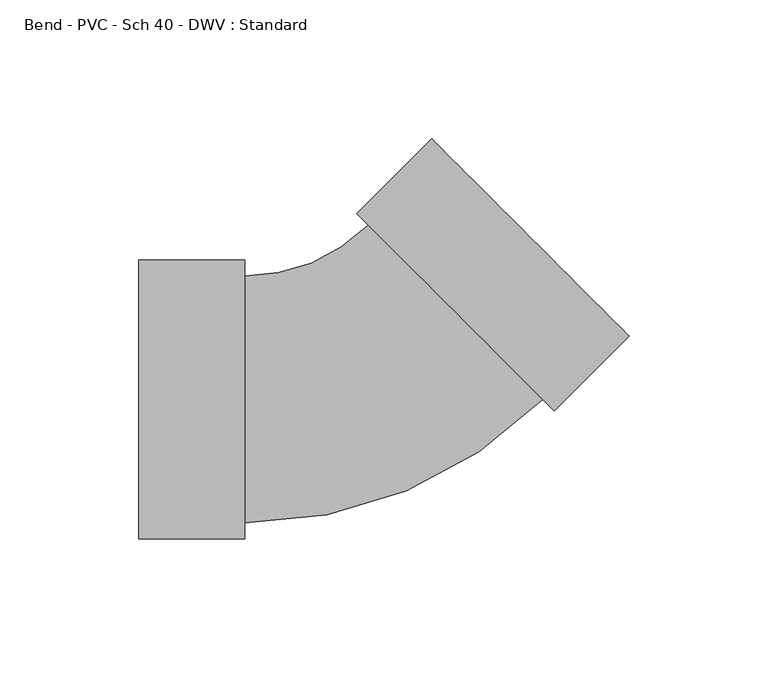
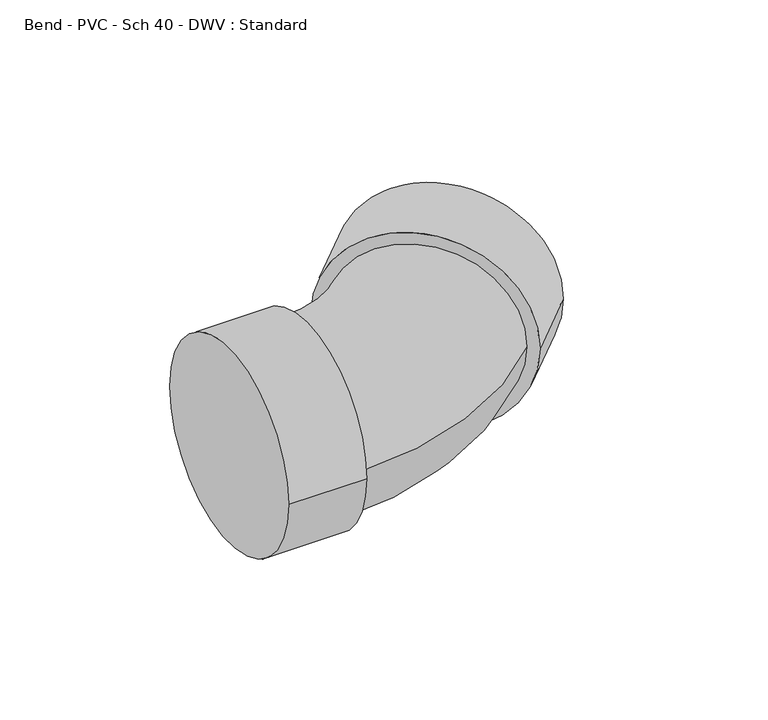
"""IFC4 building model written with IfcOpenShell, lengths in millimetres: pipe fitting geometry, Bend - PVC - Sch 40 - DWV : Standard."""

import ifcopenshell
import ifcopenshell.guid

model = None  # the IFC model being written
_history = None  # IfcOwnerHistory: only IFC2X3 demands one
_inside = {}  # id of a spatial element -> (the spatial element, [elements in it])
_under = {}  # id of a project, library or spatial element -> (it, [spatial elements below it])
_declared = {}  # id of a project -> (the project, [libraries it declares])
_typed = {}  # id of a type object -> (the type object, [elements of that type])
_made_of = {}  # id of a material, layer set ... -> (it, [elements and type objects made of it])


def new_model(schema):
    """Start an empty IFC model of exactly this schema.

    Asked for "IFC4X3", IfcOpenShell would pick the latest addendum, in which some entities
    have other attributes; the version numbers below select the first issue.
    IFC2X3 requires an IfcOwnerHistory on every rooted entity: one is made here for all.
    """
    global model, _history
    if schema == "IFC4X3":
        model = ifcopenshell.file(schema_version=(4, 3, 0, 0))
    else:
        model = ifcopenshell.file(schema=schema)
    _inside.clear()
    _under.clear()
    _declared.clear()
    _typed.clear()
    _made_of.clear()
    _history = None
    if model.schema == "IFC2X3":
        org = make("IfcOrganization", Name="unknown")
        user = make(
            "IfcPersonAndOrganization",
            ThePerson=make("IfcPerson", FamilyName="unknown"),
            TheOrganization=org,
        )
        app = make(
            "IfcApplication",
            ApplicationDeveloper=org,
            Version="unknown",
            ApplicationFullName="unknown",
            ApplicationIdentifier="unknown",
        )
        _history = make(
            "IfcOwnerHistory",
            OwningUser=user,
            OwningApplication=app,
            ChangeAction="ADDED",
            CreationDate=0,
        )
    return model


def make(cls, **values):
    """One entity of the class cls with the attributes given. An attribute that is None is left unset."""
    return model.create_entity(
        cls, **{name: value for name, value in values.items() if value is not None}
    )


def rooted(cls, **values):
    """An entity with a GlobalId (a new one), such as an element, a storey or a relation."""
    return make(cls, GlobalId=ifcopenshell.guid.new(), OwnerHistory=_history, **values)


def si_unit(unit_type, name, prefix=None):
    """IfcSIUnit, for example si_unit("LENGTHUNIT", "METRE", prefix="MILLI")."""
    return make("IfcSIUnit", UnitType=unit_type, Prefix=prefix, Name=name)


def assignment(units):
    """IfcUnitAssignment: the units of a project."""
    return None if units is None else make("IfcUnitAssignment", Units=units)


def point(xyz):
    """IfcCartesianPoint."""
    return None if xyz is None else make("IfcCartesianPoint", Coordinates=xyz)


def direction(xyz):
    """IfcDirection."""
    return None if xyz is None else make("IfcDirection", DirectionRatios=xyz)


def frame(location, z_axis=None, x_axis=None):
    """IfcAxis2Placement3D, a coordinate frame: its origin and axes. An axis left out is left unset."""
    return make(
        "IfcAxis2Placement3D",
        Location=point(location),
        Axis=direction(z_axis),
        RefDirection=direction(x_axis),
    )


def origin():
    """The frame at (0, 0, 0) with its axes left unset."""
    return frame((0.0, 0.0, 0.0))


def place(relative_to, where):
    """IfcLocalPlacement: puts the frame where relative to a parent placement (None: the world)."""
    return make(
        "IfcLocalPlacement", PlacementRelTo=relative_to, RelativePlacement=where
    )


def context(
    kind, dimensions, precision=None, world=None, true_north=None, identifier=None
):
    """IfcGeometricRepresentationContext, for example the 3D "Model" context."""
    return make(
        "IfcGeometricRepresentationContext",
        ContextIdentifier=identifier,
        ContextType=kind,
        CoordinateSpaceDimension=dimensions,
        Precision=precision,
        WorldCoordinateSystem=world,
        TrueNorth=true_north,
    )


def project(units=None, contexts=None):
    """IfcProject with its units and contexts."""
    return rooted(
        "IfcProject",
        Name="project",
        RepresentationContexts=contexts,
        UnitsInContext=assignment(units),
    )


def spatial(cls, under=None, at=None, **own):
    """A site, building, storey or space (cls), placed at a placement, below another one or the project."""
    s = rooted(cls, ObjectPlacement=at, **own)
    if under is not None:
        _under.setdefault(under.id(), (under, []))[1].append(s)
    return s


def circle_curve(where, radius):
    """IfcCircle in the frame where."""
    return make("IfcCircle", Position=where, Radius=radius)


def ellipse_curve(where, semi_axis1, semi_axis2):
    """IfcEllipse in the frame where."""
    return make(
        "IfcEllipse", Position=where, SemiAxis1=semi_axis1, SemiAxis2=semi_axis2
    )


def trimmed(basis, trim1, trim2, sense, master):
    """IfcTrimmedCurve: the piece of a basis curve between two trims."""
    return make(
        "IfcTrimmedCurve",
        BasisCurve=basis,
        Trim1=trim1,
        Trim2=trim2,
        SenseAgreement=sense,
        MasterRepresentation=master,
    )


def shape(context_of_items, identifier, shape_type, items):
    """IfcShapeRepresentation: the items that make up one representation, for example the "Body"."""
    return make(
        "IfcShapeRepresentation",
        ContextOfItems=context_of_items,
        RepresentationIdentifier=identifier,
        RepresentationType=shape_type,
        Items=items,
    )


def source(mapping_origin, context_of_items, identifier, shape_type, items):
    """IfcRepresentationMap: a shape defined once, which mapped items show again and again."""
    return make(
        "IfcRepresentationMap",
        MappingOrigin=mapping_origin,
        MappedRepresentation=shape(context_of_items, identifier, shape_type, items),
    )


def transform(
    local_origin,
    x_axis=None,
    y_axis=None,
    z_axis=None,
    scale=None,
    scale2=None,
    scale3=None,
    uniform=True,
):
    """IfcCartesianTransformationOperator3D, or its non-uniform kind. x_axis, y_axis, z_axis: its Axis1, 2, 3."""
    if uniform:
        return make(
            "IfcCartesianTransformationOperator3D",
            Axis1=direction(x_axis),
            Axis2=direction(y_axis),
            LocalOrigin=point(local_origin),
            Scale=scale,
            Axis3=direction(z_axis),
        )
    return make(
        "IfcCartesianTransformationOperator3DnonUniform",
        Axis1=direction(x_axis),
        Axis2=direction(y_axis),
        LocalOrigin=point(local_origin),
        Scale=scale,
        Axis3=direction(z_axis),
        Scale2=scale2,
        Scale3=scale3,
    )


def mapped(mapping_source, mapping_target):
    """IfcMappedItem: shows the shape of a source again, moved by a transform."""
    return make(
        "IfcMappedItem", MappingSource=mapping_source, MappingTarget=mapping_target
    )


def made_of(thing, what):
    """Note that an element or type object is made of a material, layer set ...; save() writes the relation."""
    if what is not None:
        _made_of.setdefault(what.id(), (what, []))[1].append(thing)
    return thing


def element(
    cls,
    number,
    at=None,
    inside=None,
    cuts=None,
    type_object=None,
    material=None,
    context=None,
    identifier="Body",
    shape_type=None,
    held_by="IfcProductDefinitionShape",
    body=None,
    shapes=None,
    **own,
):
    """One element of the class cls, such as IfcWall. Its Tag is "e" and its number.

    at: its placement. inside: the storey or other place that contains it. cuts: it is an
    opening in that element (IfcRelVoidsElement). A single representation is given by context,
    identifier, shape_type and body (its items); several are given by shapes. held_by: the class
    of the entity that holds the representations. save() writes the other relations.
    """
    e = rooted(cls, Tag="e%d" % number, ObjectPlacement=at, **own)
    if body is not None:
        shapes = [shape(context, identifier, shape_type, body)]
    if shapes is not None:
        e.Representation = make(held_by, Representations=shapes)
    if inside is not None:
        _inside.setdefault(inside.id(), (inside, []))[1].append(e)
    if cuts is not None:
        rooted(
            "IfcRelVoidsElement", RelatingBuildingElement=cuts, RelatedOpeningElement=e
        )
    if type_object is not None:
        _typed.setdefault(type_object.id(), (type_object, []))[1].append(e)
    return made_of(e, material)


def aggregate(whole, parts):
    """IfcRelAggregates: a whole, such as a stair, and the parts it consists of."""
    return rooted("IfcRelAggregates", RelatingObject=whole, RelatedObjects=parts)


def save(model, path):
    """Write the relations noted so far, then the file.

    IfcRelAggregates (storeys below a building ...), IfcRelContainedInSpatialStructure (elements
    in a storey), IfcRelDefinesByType, IfcRelAssociatesMaterial and IfcRelDeclares: one each for
    every whole, place, type object, material and project.
    """
    for whole, parts in _under.values():
        aggregate(whole, parts)
    for where, things in _inside.values():
        rooted(
            "IfcRelContainedInSpatialStructure",
            RelatedElements=things,
            RelatingStructure=where,
        )
    for kind, things in _typed.values():
        rooted("IfcRelDefinesByType", RelatedObjects=things, RelatingType=kind)
    for what, things in _made_of.values():
        rooted("IfcRelAssociatesMaterial", RelatedObjects=things, RelatingMaterial=what)
    for by, libraries in _declared.values():
        rooted("IfcRelDeclares", RelatingContext=by, RelatedDefinitions=libraries)
    model.write(path)


def plane_surface(at):
    """IfcPlane: the flat surface through the origin of the frame at, square to its z axis."""
    return make("IfcPlane", Position=at)


def cylinder_surface(at, radius):
    """IfcCylindricalSurface: all points at the distance radius from the z axis of the frame at."""
    return make("IfcCylindricalSurface", Position=at, Radius=radius)


def revolved_surface(curve, axis_point, axis_direction):
    """IfcSurfaceOfRevolution: the curve turned about the line through axis_point along axis_direction."""
    return make(
        "IfcSurfaceOfRevolution",
        SweptCurve=make("IfcArbitraryOpenProfileDef", ProfileType="CURVE", Curve=curve),
        AxisPosition=make("IfcAxis1Placement", Location=point(axis_point), Axis=direction(axis_direction)),
    )


def advanced_brep(points, edges, surfaces, faces):
    """IfcAdvancedBrep: a solid bounded by faces that lie on surfaces and meet in shared edges.

    An edge is (start, end): straight between two places in points (the first is 0);
    or (start, end, curve); or (start, end, curve, False) where it runs against its curve.
    A face is (place in surfaces, loops), or (place, loops, False) where it looks against
    its surface's normal. A loop lists edges by number (the first is 1), with a minus sign
    where the edge is run from its end to its start. The first loop is the outer one.
    """
    corners = [point(p) for p in points]
    vertices = [make("IfcVertexPoint", VertexGeometry=c) for c in corners]
    made = []
    for start, end, *more in edges:
        made.append(
            make(
                "IfcEdgeCurve",
                EdgeStart=vertices[start],
                EdgeEnd=vertices[end],
                EdgeGeometry=more[0] if more else make("IfcPolyline", Points=[corners[start], corners[end]]),
                SameSense=more[1] if len(more) > 1 else True,
            )
        )
    hull = []
    for where, loops, *sense in faces:
        bounds = []
        for j, loop in enumerate(loops):
            ring = [make("IfcOrientedEdge", EdgeElement=made[abs(k) - 1], Orientation=k > 0) for k in loop]
            bounds.append(
                make(
                    "IfcFaceOuterBound" if j == 0 else "IfcFaceBound",
                    Bound=make("IfcEdgeLoop", EdgeList=ring),
                    Orientation=True,
                )
            )
        hull.append(make("IfcAdvancedFace", Bounds=bounds, FaceSurface=surfaces[where], SameSense=sense[0] if sense else True))
    return make("IfcAdvancedBrep", Outer=make("IfcClosedShell", CfsFaces=hull))


def bend_pvc_sch_40_dwv_standard_a5322a10(model_context):
    return source(origin(), model_context, "Body", "AdvancedBrep", [
        advanced_brep(
        [(-82.55, -50.2666, 0.0), (-82.55, 50.2666, 0.0), (-44.45, -50.2666, 0.0), (-44.45, 50.2666, 0.0), (-44.45, -44.45, 0.0), (-44.45, 44.45, 0.0), (0.0028251, 62.8617928, 0.0), (62.8617928, -0.0028251, 0.0), (66.9745652, -4.1159672, 0.0), (-4.1099474, 66.9749349, 0.0), (93.9165443, 22.8235904, 0.0), (22.8320317, 93.9144925, 0.0)],
        [
            (0, 1, circle_curve(frame((-82.55, 0.0, 0.0), z_axis=(-1.0, 0.0, 0.0), x_axis=(0.0, 1.0, 0.0)), 50.2666)),
            (1, 0, circle_curve(frame((-82.55, 0.0, 0.0), z_axis=(-1.0, 0.0, 0.0), x_axis=(0.0, 1.0, 0.0)), 50.2666)),
            (2, 3, circle_curve(frame((-44.45, 0.0, 0.0), z_axis=(1.0, 0.0, 0.0), x_axis=(0.0, 1.0, 0.0)), 50.2666)),
            (3, 2, circle_curve(frame((-44.45, 0.0, 0.0), z_axis=(1.0, 0.0, 0.0), x_axis=(0.0, 1.0, 0.0)), 50.2666)),
            (4, 5, circle_curve(frame((-44.45, 0.0, 0.0), z_axis=(-1.0, 0.0, 0.0), x_axis=(0.0, 1.0, 0.0)), 44.45)),
            (5, 4, circle_curve(frame((-44.45, 0.0, 0.0), z_axis=(-1.0, 0.0, 0.0), x_axis=(0.0, 1.0, 0.0)), 44.45)),
            (0, 2),
            (3, 1),
            (6, 5, circle_curve(frame((-44.45, 107.3186136, 0.0), z_axis=(0.0, 0.0, -1.0), x_axis=(0.0, -1.0, 0.0)), 62.8686136)),
            (4, 7, circle_curve(frame((-44.45, 107.3186136, 0.0), z_axis=(0.0, 0.0, 1.0), x_axis=(0.0, -1.0, 0.0)), 151.7686136)),
            (7, 6, circle_curve(frame((31.4323089, 31.4294839, 0.0), z_axis=(-0.7071385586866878, -0.7070750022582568, 0.0), x_axis=(-0.7070750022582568, 0.7071385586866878, 0.0)), 44.45)),
            (6, 7, circle_curve(frame((31.4323089, 31.4294839, 0.0), z_axis=(-0.7071385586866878, -0.7070750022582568, 0.0), x_axis=(-0.7070750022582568, 0.7071385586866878, 0.0)), 44.45)),
            (8, 9, circle_curve(frame((31.4323089, 31.4294839, 0.0), z_axis=(-0.707138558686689, -0.7070750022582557, 0.0), x_axis=(-0.7070750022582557, 0.707138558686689, 0.0)), 50.2666)),
            (9, 8, circle_curve(frame((31.4323089, 31.4294839, 0.0), z_axis=(-0.707138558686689, -0.7070750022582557, 0.0), x_axis=(-0.7070750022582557, 0.707138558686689, 0.0)), 50.2666)),
            (10, 11, circle_curve(frame((58.374288, 58.3690414, 0.0), z_axis=(0.707138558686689, 0.7070750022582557, 0.0), x_axis=(-0.7070750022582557, 0.707138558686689, 0.0)), 50.2666)),
            (11, 10, circle_curve(frame((58.374288, 58.3690414, 0.0), z_axis=(0.707138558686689, 0.7070750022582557, 0.0), x_axis=(-0.7070750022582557, 0.707138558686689, 0.0)), 50.2666)),
            (8, 10),
            (11, 9),
        ],
        [
            plane_surface(frame((-82.55, 0.0, 0.0), z_axis=(-1.0, 0.0, 0.0), x_axis=(0.0, 0.0, 1.0))),
            plane_surface(frame((-44.45, 0.0, 0.0), z_axis=(1.0, 0.0, 0.0), x_axis=(0.0, 0.0, 1.0))),
            cylinder_surface(frame((-82.55, 0.0, 0.0), z_axis=(-1.0, 0.0, 0.0), x_axis=(0.0, 1.0, 0.0)), 50.2666),
            revolved_surface(trimmed(ellipse_curve(frame((-44.45, 0.0, 0.0), z_axis=(-1.0, 0.0, 0.0), x_axis=(0.0, 1.0, 0.0)), 44.45, 44.45), [point((-44.45, -44.45, 0.0))], [point((-44.45, 44.45, 0.0))], True, "CARTESIAN"), (-44.45, 107.3186136, 0.0), (0.0, 0.0, 1.0)),
            revolved_surface(trimmed(ellipse_curve(frame((-44.45, 0.0, 0.0), z_axis=(-1.0, 0.0, 0.0), x_axis=(0.0, 1.0, 0.0)), 44.45, 44.45), [point((-44.45, 44.45, 0.0))], [point((-44.45, -44.45, 0.0))], True, "CARTESIAN"), (-44.45, 107.3186136, 0.0), (0.0, 0.0, 1.0)),
            plane_surface(frame((31.4323089, 31.4294839, 0.0), z_axis=(-0.707138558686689, -0.7070750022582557, 0.0), x_axis=(0.0, 0.0, 1.0))),
            plane_surface(frame((58.374288, 58.3690414, 0.0), z_axis=(0.707138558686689, 0.7070750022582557, 0.0), x_axis=(0.0, 0.0, 1.0))),
            cylinder_surface(frame((31.4323089, 31.4294839, 0.0), z_axis=(-0.707138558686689, -0.7070750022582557, 0.0), x_axis=(-0.7070750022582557, 0.707138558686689, 0.0)), 50.2666),
        ],
        [
            (0, [[1, 2]]),
            (1, [[3, 4], [5, 6]]),
            (2, [[-1, 7, -4, 8]]),
            (2, [[-2, -8, -3, -7]]),
            (3, [[9, -5, 10, 11]]),
            (4, [[-9, 12, -10, -6]]),
            (5, [[13, 14], [-11, -12]]),
            (6, [[15, 16]]),
            (7, [[-13, 17, -16, 18]]),
            (7, [[-14, -18, -15, -17]]),
        ],
    ),
    ])


if __name__ == "__main__":
    model = new_model("IFC4")
    model_context = context("Model", 3, world=origin())
    ifc_project = project(units=[si_unit("LENGTHUNIT", "METRE", prefix="MILLI")], contexts=[model_context])
    site = spatial("IfcSite", under=ifc_project)
    building = spatial("IfcBuilding", under=site)
    placement = place(None, origin())
    bend_pvc_sch_40_dwv_standard_shape = bend_pvc_sch_40_dwv_standard_a5322a10(model_context)
    element("IfcPipeFitting", 1, ObjectType="Bend - PVC - Sch 40 - DWV : Standard", at=placement, inside=building, context=model_context, shape_type="MappedRepresentation", body=[
        mapped(bend_pvc_sch_40_dwv_standard_shape, transform((0.0, 0.0, 0.0), x_axis=(1.0, 0.0, 0.0), y_axis=(0.0, 1.0, 0.0), z_axis=(0.0, 0.0, 1.0))),
    ])
    save(model, "model.ifc")
